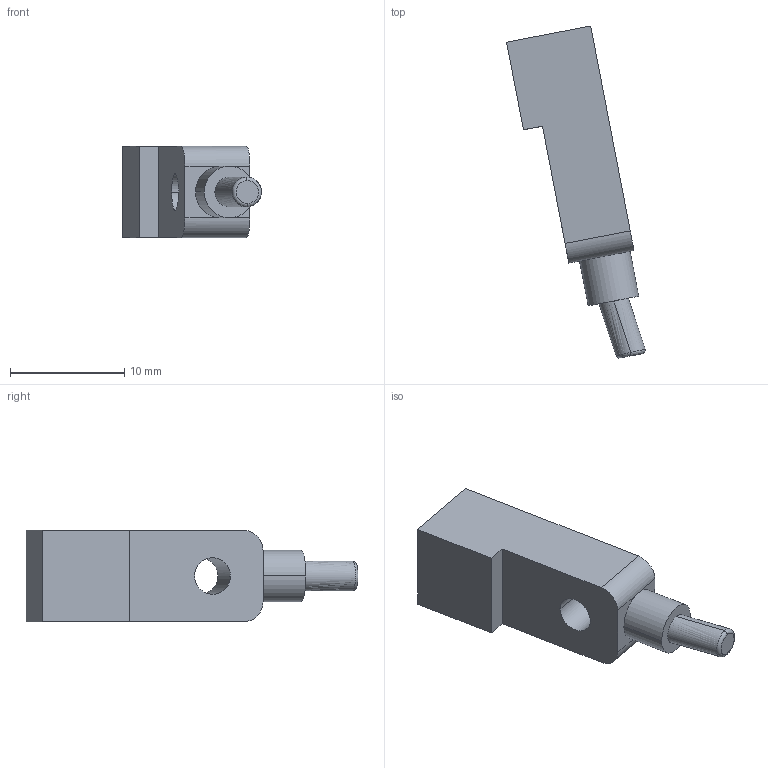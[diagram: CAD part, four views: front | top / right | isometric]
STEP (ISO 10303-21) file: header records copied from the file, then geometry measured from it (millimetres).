
FILE_DESCRIPTION (( 'STEP AP214' ), '1' );
FILE_NAME ('松下GX-F8A.STEP', '2019-12-19T05:13:24', ( '微软用户' ), ( '微软中国' ), 'SwSTEP 2.0', 'SolidWorks 2016', '' );
FILE_SCHEMA (( 'AUTOMOTIVE_DESIGN' ));
Length unit declared in the file: millimetre
Products named in the file (1): 侂狟GX-F8A
Bounding box: 12.15 x 29.04 x 8 mm (x, y, z)
Volume: 1070 mm3; surface area: 826 mm2
Topology: 1 solids, 1 shells, 21 faces, 52 edges, 34 vertices
Faces by surface type: bspline 8, plane 7, cylinder 6
Entity records: 1229 total; most frequent: CARTESIAN_POINT 753, ORIENTED_EDGE 104, DIRECTION 69, EDGE_CURVE 52, VERTEX_POINT 34, AXIS2_PLACEMENT_3D 26, EDGE_LOOP 24, FACE_OUTER_BOUND 21
